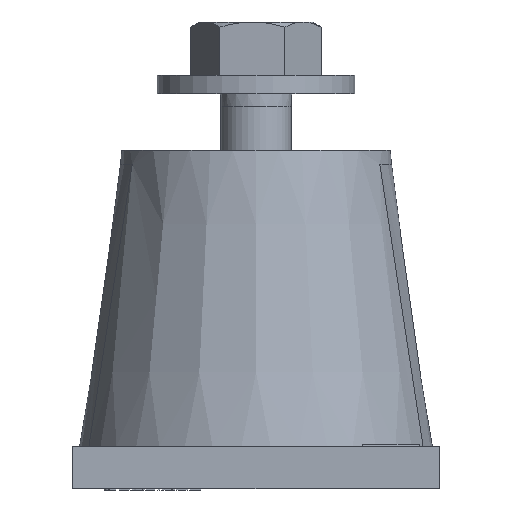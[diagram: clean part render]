
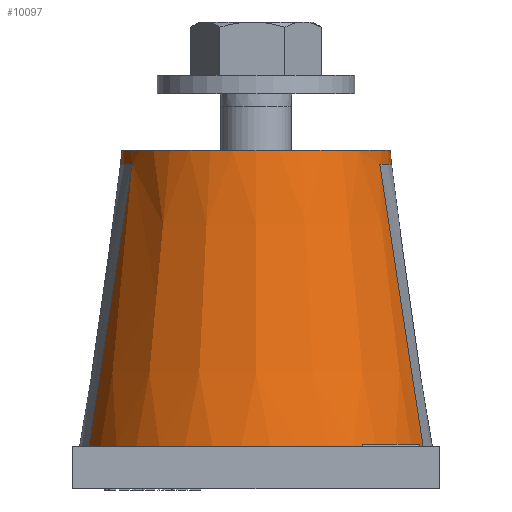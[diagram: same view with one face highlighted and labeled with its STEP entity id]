
A CAD part, front view. The second image highlights one B-rep face of the part: STEP entity #10097.
In plain terms, the highlighted conical face has half-angle 8.13 degrees and reference radius 17.462 mm.
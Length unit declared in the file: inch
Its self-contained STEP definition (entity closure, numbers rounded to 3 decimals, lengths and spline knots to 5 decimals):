
#714=CARTESIAN_POINT('',(-0.25,0.54838,1.4375));
#715=VERTEX_POINT('',#714);
#716=CARTESIAN_POINT('',(-0.25,0.74017,0.1875));
#717=VERTEX_POINT('',#716);
#718=CARTESIAN_POINT('',(-0.25,0.54838,1.4375));
#719=CARTESIAN_POINT('',(-0.25,0.6319,0.90553));
#720=CARTESIAN_POINT('',(-0.25,0.74017,0.1875));
#728=(BOUNDED_CURVE()B_SPLINE_CURVE(2,(#718,#719,#720),.UNSPECIFIED.,.F.,.U.)B_SPLINE_CURVE_WITH_KNOTS((3,3),(0.0,3.21216),.UNSPECIFIED.)CURVE()GEOMETRIC_REPRESENTATION_ITEM()RATIONAL_B_SPLINE_CURVE((1.0,1.01,1.0))REPRESENTATION_ITEM(''));
#729=EDGE_CURVE('',#715,#717,#728,.T.);
#731=CARTESIAN_POINT('',(0.25,0.54838,1.4375));
#732=VERTEX_POINT('',#731);
#733=CARTESIAN_POINT('',(0.,0.,1.4375));
#734=DIRECTION('',(0.0,0.0,1.0));
#735=DIRECTION('',(1.0,0.0,0.0));
#736=AXIS2_PLACEMENT_3D('',#733,#734,#735);
#737=CIRCLE('',#736,0.60268);
#738=EDGE_CURVE('',#732,#715,#737,.T.);
#740=CARTESIAN_POINT('',(0.25,0.74017,0.1875));
#741=VERTEX_POINT('',#740);
#742=CARTESIAN_POINT('',(0.25,0.74017,0.1875));
#743=CARTESIAN_POINT('',(0.25,0.6319,0.90553));
#744=CARTESIAN_POINT('',(0.25,0.54838,1.4375));
#752=(BOUNDED_CURVE()B_SPLINE_CURVE(2,(#742,#743,#744),.UNSPECIFIED.,.F.,.U.)B_SPLINE_CURVE_WITH_KNOTS((3,3),(0.0,3.21216),.UNSPECIFIED.)CURVE()GEOMETRIC_REPRESENTATION_ITEM()RATIONAL_B_SPLINE_CURVE((1.0,1.01,1.0))REPRESENTATION_ITEM(''));
#753=EDGE_CURVE('',#741,#732,#752,.T.);
#770=CARTESIAN_POINT('',(0.25,-0.54838,1.4375));
#771=VERTEX_POINT('',#770);
#772=CARTESIAN_POINT('',(0.25,-0.74017,0.1875));
#773=VERTEX_POINT('',#772);
#774=CARTESIAN_POINT('',(0.25,-0.54838,1.4375));
#775=CARTESIAN_POINT('',(0.25,-0.6319,0.90553));
#776=CARTESIAN_POINT('',(0.25,-0.74017,0.1875));
#784=(BOUNDED_CURVE()B_SPLINE_CURVE(2,(#774,#775,#776),.UNSPECIFIED.,.F.,.U.)B_SPLINE_CURVE_WITH_KNOTS((3,3),(0.0,3.21216),.UNSPECIFIED.)CURVE()GEOMETRIC_REPRESENTATION_ITEM()RATIONAL_B_SPLINE_CURVE((1.0,1.01,1.0))REPRESENTATION_ITEM(''));
#785=EDGE_CURVE('',#771,#773,#784,.T.);
#787=CARTESIAN_POINT('',(-0.25,-0.54838,1.4375));
#788=VERTEX_POINT('',#787);
#789=CARTESIAN_POINT('',(0.,0.,1.4375));
#790=DIRECTION('',(0.0,0.0,1.0));
#791=DIRECTION('',(1.0,0.0,0.0));
#792=AXIS2_PLACEMENT_3D('',#789,#790,#791);
#793=CIRCLE('',#792,0.60268);
#794=EDGE_CURVE('',#788,#771,#793,.T.);
#796=CARTESIAN_POINT('',(-0.25,-0.74017,0.1875));
#797=VERTEX_POINT('',#796);
#798=CARTESIAN_POINT('',(-0.25,-0.74017,0.1875));
#799=CARTESIAN_POINT('',(-0.25,-0.6319,0.90553));
#800=CARTESIAN_POINT('',(-0.25,-0.54838,1.4375));
#808=(BOUNDED_CURVE()B_SPLINE_CURVE(2,(#798,#799,#800),.UNSPECIFIED.,.F.,.U.)B_SPLINE_CURVE_WITH_KNOTS((3,3),(0.0,3.21216),.UNSPECIFIED.)CURVE()GEOMETRIC_REPRESENTATION_ITEM()RATIONAL_B_SPLINE_CURVE((1.0,1.01,1.0))REPRESENTATION_ITEM(''));
#809=EDGE_CURVE('',#797,#788,#808,.T.);
#6042=CARTESIAN_POINT('',(0.78125,0.,0.1875));
#6043=VERTEX_POINT('',#6042);
#6044=CARTESIAN_POINT('',(0.,0.,0.1875));
#6045=DIRECTION('',(0.0,0.0,-1.0));
#6046=DIRECTION('',(1.0,0.0,0.0));
#6047=AXIS2_PLACEMENT_3D('',#6044,#6045,#6046);
#6048=CIRCLE('',#6047,0.78125);
#6049=EDGE_CURVE('',#6043,#773,#6048,.T.);
#6052=CARTESIAN_POINT('',(0.,0.,0.1875));
#6053=DIRECTION('',(0.0,0.0,-1.0));
#6054=DIRECTION('',(1.0,0.0,0.0));
#6055=AXIS2_PLACEMENT_3D('',#6052,#6053,#6054);
#6056=CIRCLE('',#6055,0.78125);
#6057=EDGE_CURVE('',#797,#717,#6056,.T.);
#6060=CARTESIAN_POINT('',(0.,0.,0.1875));
#6061=DIRECTION('',(0.0,0.0,-1.0));
#6062=DIRECTION('',(1.0,0.0,0.0));
#6063=AXIS2_PLACEMENT_3D('',#6060,#6061,#6062);
#6064=CIRCLE('',#6063,0.78125);
#6065=EDGE_CURVE('',#741,#6043,#6064,.T.);
#10063=CARTESIAN_POINT('',(0.59375,0.,1.5));
#10064=VERTEX_POINT('',#10063);
#10065=CARTESIAN_POINT('',(0.,0.,1.5));
#10066=DIRECTION('',(0.0,0.0,-1.0));
#10067=DIRECTION('',(1.0,0.0,0.0));
#10068=AXIS2_PLACEMENT_3D('',#10065,#10066,#10067);
#10069=CIRCLE('',#10068,0.59375);
#10070=EDGE_CURVE('',#10064,#10064,#10069,.T.);
#10078=CARTESIAN_POINT('',(0.,0.,0.84375));
#10079=DIRECTION('',(0.0,0.0,-1.0));
#10080=DIRECTION('',(1.0,0.0,0.0));
#10081=AXIS2_PLACEMENT_3D('',#10078,#10079,#10080);
#10082=CONICAL_SURFACE('',#10081,0.6875,8.13);
#10083=ORIENTED_EDGE('',*,*,#785,.T.);
#10084=ORIENTED_EDGE('',*,*,#6049,.F.);
#10085=ORIENTED_EDGE('',*,*,#6065,.F.);
#10086=ORIENTED_EDGE('',*,*,#753,.T.);
#10087=ORIENTED_EDGE('',*,*,#738,.T.);
#10088=ORIENTED_EDGE('',*,*,#729,.T.);
#10089=ORIENTED_EDGE('',*,*,#6057,.F.);
#10090=ORIENTED_EDGE('',*,*,#809,.T.);
#10091=ORIENTED_EDGE('',*,*,#794,.T.);
#10092=EDGE_LOOP('',(#10083,#10084,#10085,#10086,#10087,#10088,#10089,#10090,#10091));
#10093=FACE_OUTER_BOUND('',#10092,.T.);
#10094=ORIENTED_EDGE('',*,*,#10070,.T.);
#10095=EDGE_LOOP('',(#10094));
#10096=FACE_BOUND('',#10095,.T.);
#10097=ADVANCED_FACE('',(#10093,#10096),#10082,.T.);
